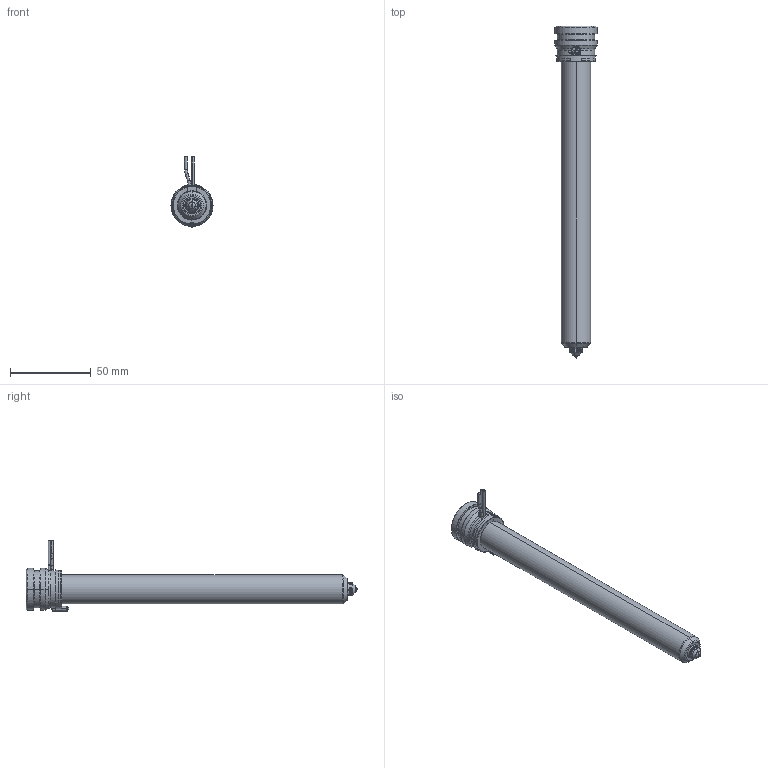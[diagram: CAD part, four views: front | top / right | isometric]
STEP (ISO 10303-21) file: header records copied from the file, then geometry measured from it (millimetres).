
FILE_DESCRIPTION((''),'2;1');
FILE_NAME('MPN-08-24-VX8-186-A','2026-02-05T12:00:47',('UPTIO'),('Thermoplay S.p.A.'),'CREO PARAMETRIC BY PTC INC, 2023494','CREO PARAMETRIC BY PTC INC, 2023494','');
FILE_SCHEMA(('CONFIG_CONTROL_DESIGN','SHAPE_APPEARANCE_LAYERS_GROUPS'));
Length unit declared in the file: millimetre
Products named in the file (1): MPN-08-24-VX8-186-A
Bounding box: 26 x 205.5 x 43.5 mm (x, y, z)
Volume: 37968.2 mm3; surface area: 50023.7 mm2
Topology: 2 solids, 3 shells, 545 faces, 1438 edges, 891 vertices
Faces by surface type: cylinder 180, plane 143, bspline 82, cone 62, torus 62, sphere 10, extrusion 6
Entity records: 29287 total; most frequent: CARTESIAN_POINT 13048, ORIENTED_EDGE 2860, DIRECTION 2578, EDGE_CURVE 1430, AXIS2_PLACEMENT_3D 1007, VERTEX_POINT 891, EDGE_LOOP 573, VECTOR 564
